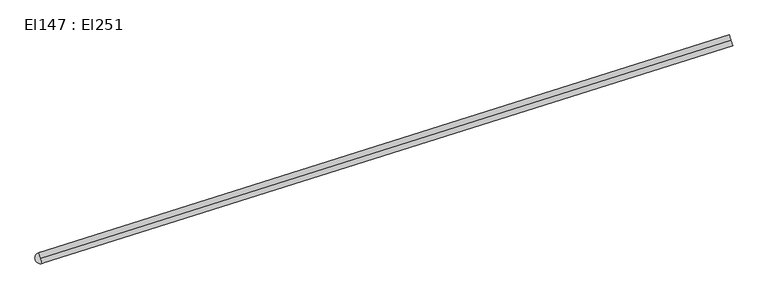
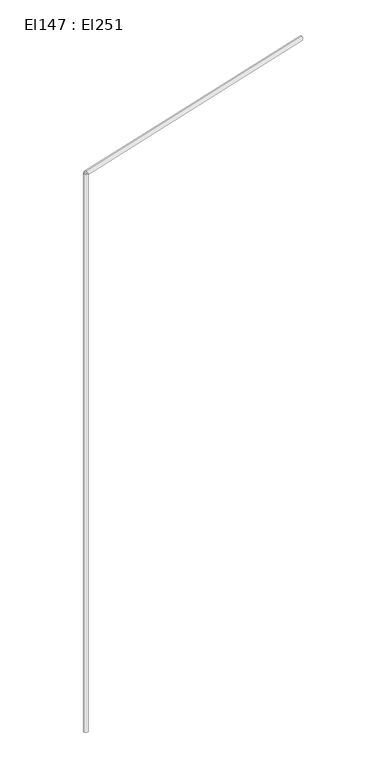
"""IFC4 building model written with IfcOpenShell, lengths in millimetres: cable carrier segment geometry, El147 : El251."""

from ifc_helpers import new_model, si_unit, point, frame, frame_2d, origin, place, context, project, spatial, circle_curve, trimmed, segment, composite_curve, outline, extrude, source, transform, mapped, element, save


def el147_el251_baa3a1ed(model_context):
    return source(origin(), model_context, "Body", "SweptSolid", [
        extrude(outline(composite_curve([segment(trimmed(circle_curve(frame_2d((0.0, -9.5)), 9.5), [point((0.0, -19.0))], [point((0.0, 0.0))], False, "CARTESIAN"), True, "CONTINUOUS"), segment(trimmed(circle_curve(frame_2d((0.0, -9.5)), 9.5), [point((0.0, 0.0))], [point((0.0, -19.0))], False, "CARTESIAN"), True, "CONTINUOUS")], self_intersect=False)), frame((11064.5096511, 16334.2761745, 4459.5), z_axis=(0.9537272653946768, 0.30067308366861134, 0.0), x_axis=(-0.30067308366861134, 0.9537272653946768, 0.0)), (0.0, 0.0, 1.0), 1226.95),
        extrude(outline(composite_curve([segment(trimmed(circle_curve(frame_2d((11064.5096511, 16334.2761745)), 9.5), [point((11055.0096511, 16334.2761745))], [point((11074.0096511, 16334.2761745))], False, "CARTESIAN"), True, "CONTINUOUS"), segment(trimmed(circle_curve(frame_2d((11064.5096511, 16334.2761745)), 9.5), [point((11074.0096511, 16334.2761745))], [point((11055.0096511, 16334.2761745))], False, "CARTESIAN"), True, "CONTINUOUS")], self_intersect=False)), frame((0.0, 0.0, 1830.0), z_axis=(0.0, 0.0, 1.0), x_axis=(1.0, 0.0, 0.0)), (0.0, 0.0, 1.0), 2620.0),
    ])


if __name__ == "__main__":
    model = new_model("IFC4")
    model_context = context("Model", 3, world=origin())
    ifc_project = project(units=[si_unit("LENGTHUNIT", "METRE", prefix="MILLI")], contexts=[model_context])
    site = spatial("IfcSite", under=ifc_project)
    building = spatial("IfcBuilding", under=site)
    placement = place(None, origin())
    el147_el251_shape = el147_el251_baa3a1ed(model_context)
    element("IfcCableCarrierSegment", 1, ObjectType="El147 : El251", at=placement, inside=building, context=model_context, shape_type="MappedRepresentation", body=[
        mapped(el147_el251_shape, transform((0.0, 0.0, 0.0), x_axis=(1.0, 0.0, 0.0), y_axis=(0.0, 1.0, 0.0), z_axis=(0.0, 0.0, 1.0))),
    ])
    save(model, "model.ifc")
